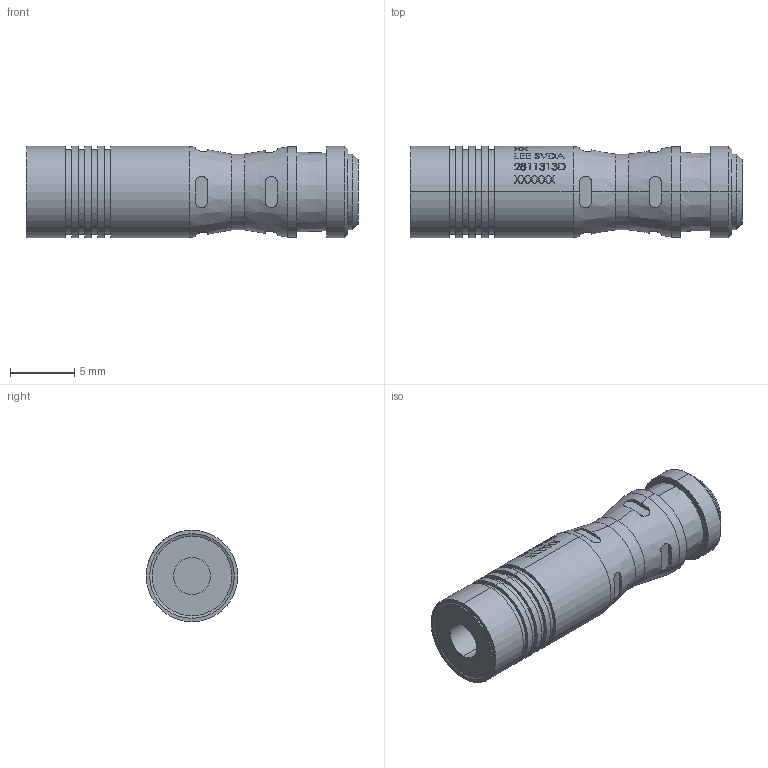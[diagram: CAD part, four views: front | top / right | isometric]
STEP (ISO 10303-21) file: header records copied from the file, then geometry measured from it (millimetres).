
FILE_DESCRIPTION (( 'STEP AP214' ), '1' );
FILE_NAME ('3DSVDA2811313D.STEP', '2021-04-01T14:29:06', ( '' ), ( '' ), 'SwSTEP 2.0', 'SolidWorks 2019', '' );
FILE_SCHEMA (( 'AUTOMOTIVE_DESIGN' ));
Length unit declared in the file: inch
Products named in the file (1): 3DSVDA2811313D
Bounding box: 25.91 x 7.14 x 7.14 mm (x, y, z)
Volume: 874.5 mm3; surface area: 771.4 mm2
Topology: 1 solids, 1 shells, 405 faces, 1060 edges, 702 vertices
Faces by surface type: bspline 161, plane 146, cylinder 84, cone 14
Entity records: 19770 total; most frequent: CARTESIAN_POINT 7406, ORIENTED_EDGE 2120, DIRECTION 1154, EDGE_CURVE 1060, VERTEX_POINT 702, B_SPLINE_CURVE_WITH_KNOTS 574, EDGE_LOOP 450, AXIS2_PLACEMENT_3D 423
